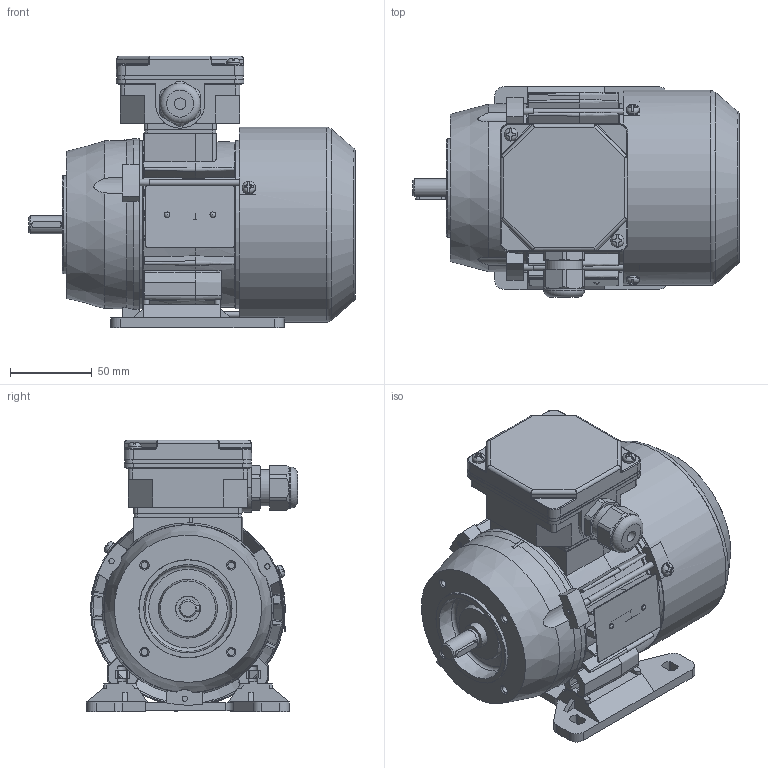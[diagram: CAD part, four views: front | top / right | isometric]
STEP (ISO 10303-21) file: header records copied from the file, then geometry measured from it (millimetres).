
FILE_DESCRIPTION(/* description */ ('Unknown'),/* implementation_level */ '2;1');
FILE_NAME(/* name */ '2SIEL63-2A2',/* time_stamp */ '2021-04-12T11:41:13+02:00',/* author */ ('Unknown'),/* organization */ ('Unknown'),/* preprocessor_version */ 'ST-DEVELOPER v16.7',/* originating_system */ 'Solid Edge',/* authorisation */ 'Unknown');
FILE_SCHEMA (('AUTOMOTIVE_DESIGN {1 0 10303 214 3 1 1}'));
Length unit declared in the file: millimetre
Products named in the file (1): 2SIEL63-2A2
Bounding box: 199.49 x 129 x 166 mm (x, y, z)
Volume: 540128 mm3; surface area: 323268.9 mm2
Topology: 2 solids, 2 shells, 1917 faces, 5453 edges, 3555 vertices
Faces by surface type: plane 1000, cylinder 562, cone 126, torus 116, bspline 92, sphere 21
Full cylindrical faces by diameter (mm): 2.4 x2, 3.242 x3, 3.7 x7, 4 x5, 4.134 x4, 4.5 x3, 4.8 x2, 5 x2, 5.8 x4, 7 x4, 8 x6, 10.599 x1, 10.999 x1, 12.899 x1, 13.099 x1, 14.998 x2, 15.4 x2, 18.998 x2, 19.498 x1, 19.698 x1, 19.998 x1, 20.098 x1, 21.518 x4, 22.3 x1, 25 x1, 28 x2, 28.48 x4, 31 x2, 32 x1, 35 x3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
Entity records: 77906 total; most frequent: CARTESIAN_POINT 16540, ORIENTED_EDGE 10258, DIRECTION 9536, EDGE_CURVE 5129, AXIS2_PLACEMENT_3D 3473, VERTEX_POINT 3434, LINE 2590, VECTOR 2590
